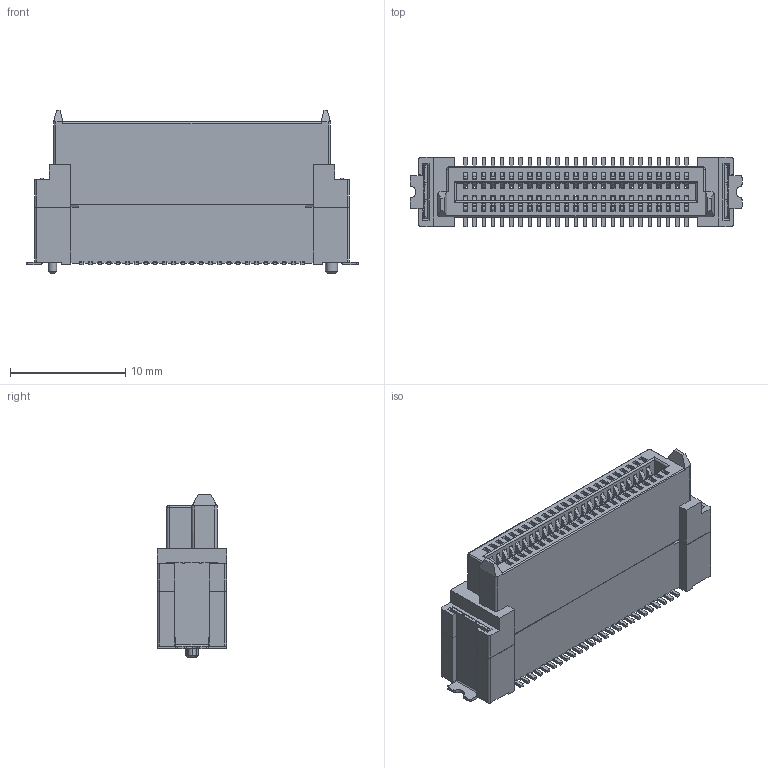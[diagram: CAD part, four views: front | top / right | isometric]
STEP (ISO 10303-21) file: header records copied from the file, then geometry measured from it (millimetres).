
FILE_DESCRIPTION(('CATIA V5 STEP Exchange'),'2;1');
FILE_NAME('F:\黄富鸿\板对板\PBB08D\母座\H12.4\HC-PBB08D-1-50-F-H12.4-XX-R-P-06 (BTB0.8 单槽 D型母座 立贴 带柱 编带)-HCTL.stp','2026-02-05T01:59:54+00:00',('none'),('none'),'CATIA Version 5 Release 20 GA (IN-10)','CATIA V5 STEP AP203','none');
FILE_SCHEMA(('CONFIG_CONTROL_DESIGN'));
Products named in the file (1): Part1
Bounding box: 28.8 x 6 x 14.15 mm (x, y, z)
Volume: 905.2 mm3; surface area: 3950.5 mm2
Topology: 54 solids, 54 shells, 2679 faces, 7940 edges, 5220 vertices
Faces by surface type: plane 2019, cylinder 654, cone 4, torus 2
Entity records: 83046 total; most frequent: ORIENTED_EDGE 15880, CARTESIAN_POINT 14992, DIRECTION 11386, EDGE_CURVE 7940, VECTOR 6598, LINE 6598, VERTEX_POINT 5220, AXIS2_PLACEMENT_3D 3046
